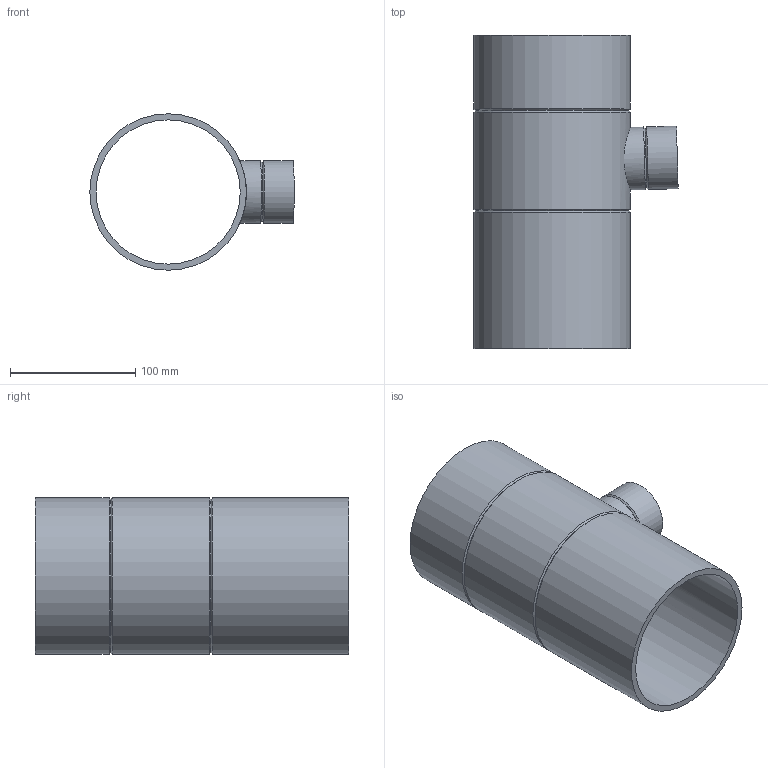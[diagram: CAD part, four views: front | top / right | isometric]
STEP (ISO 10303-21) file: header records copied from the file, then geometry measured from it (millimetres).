
FILE_DESCRIPTION(/* description */ (''),/* implementation_level */ '2;1');
FILE_NAME(/* name */ 'Z:\Geberit\Export\NewStep\368162.stp',/* time_stamp */ '2014-04-02T08:00:01+02:00',/* author */ ('nelson'),/* organization */ (''),/* preprocessor_version */ 'ST-DEVELOPER v15.2',/* originating_system */ 'Autodesk Inventor 2014',/* authorisation */ '');
FILE_SCHEMA (('AUTOMOTIVE_DESIGN { 1 0 10303 214 3 1 1 }'));
Length unit declared in the file: millimetre
Products named in the file (1): 368162
Bounding box: 163.12 x 250 x 125 mm (x, y, z)
Volume: 470591.3 mm3; surface area: 202630.6 mm2
Topology: 1 solids, 1 shells, 16 faces, 37 edges, 23 vertices
Faces by surface type: cylinder 7, cone 6, plane 3
Full cylindrical faces by diameter (mm): 44 x1, 50 x2, 115.2 x1, 125 x3
Entity records: 503 total; most frequent: CARTESIAN_POINT 181, DIRECTION 64, EDGE_LOOP 34, ORIENTED_EDGE 34, AXIS2_PLACEMENT_3D 32, FACE_BOUND 22, VERTEX_POINT 17, EDGE_CURVE 17
